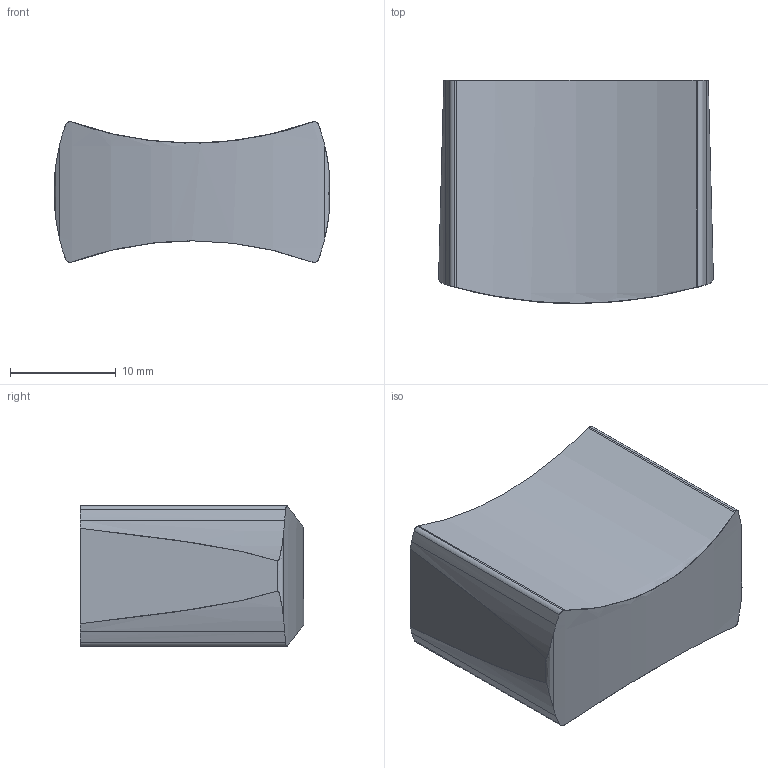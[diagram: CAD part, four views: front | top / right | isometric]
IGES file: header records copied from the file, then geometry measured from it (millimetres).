
Start section: Data from Parasolid IGES Translator 15.0.47, Copyright(c) 2006 Siemens P LM Software. All Rights Reserved.
Global section: file name: 9113428.igs; native system:  By UGS Corp.; preprocessor: XPlus GENERIC/IGES 3.0; author: Noname; organization: Noname; date: 20140122.100508; units: millimetre
Bounding box: 26 x 21.11 x 13.31 mm (x, y, z)
Surface area: 2180.5 mm2 (no closed solid volume)
Topology: 0 solids, 0 shells, 26 faces, 138 edges, 138 vertices
Faces by surface type: revolution 22, extrusion 4
